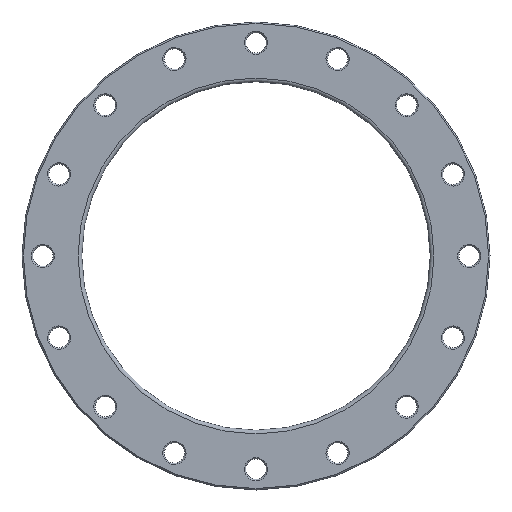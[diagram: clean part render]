
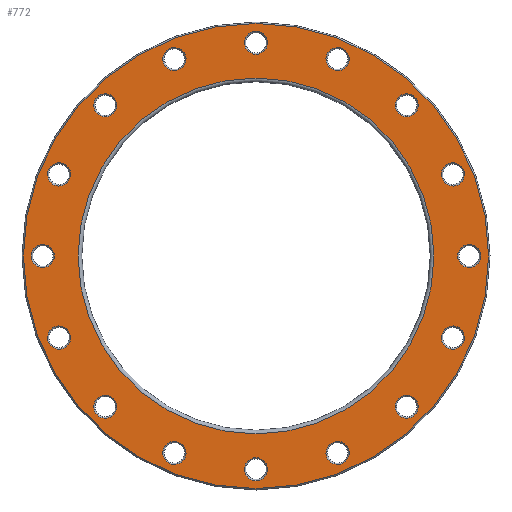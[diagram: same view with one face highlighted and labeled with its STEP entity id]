
A CAD part, front view. The second image highlights one B-rep face of the part: STEP entity #772.
In plain terms, the highlighted planar face has unit normal (0, -1, 0).
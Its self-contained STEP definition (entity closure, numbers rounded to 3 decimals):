
#23=PLANE('',#908);
#170=ORIENTED_EDGE('',*,*,#269,.T.);
#171=ORIENTED_EDGE('',*,*,#270,.T.);
#172=ORIENTED_EDGE('',*,*,#204,.T.);
#173=ORIENTED_EDGE('',*,*,#208,.T.);
#174=ORIENTED_EDGE('',*,*,#212,.T.);
#175=ORIENTED_EDGE('',*,*,#216,.T.);
#176=ORIENTED_EDGE('',*,*,#220,.T.);
#177=ORIENTED_EDGE('',*,*,#224,.T.);
#178=ORIENTED_EDGE('',*,*,#228,.T.);
#179=ORIENTED_EDGE('',*,*,#232,.T.);
#180=ORIENTED_EDGE('',*,*,#236,.T.);
#181=ORIENTED_EDGE('',*,*,#240,.T.);
#182=ORIENTED_EDGE('',*,*,#244,.T.);
#183=ORIENTED_EDGE('',*,*,#248,.T.);
#184=ORIENTED_EDGE('',*,*,#252,.T.);
#185=ORIENTED_EDGE('',*,*,#256,.T.);
#186=ORIENTED_EDGE('',*,*,#260,.T.);
#187=ORIENTED_EDGE('',*,*,#271,.T.);
#204=EDGE_CURVE('',#276,#276,#348,.T.);
#208=EDGE_CURVE('',#280,#280,#352,.T.);
#212=EDGE_CURVE('',#284,#284,#356,.T.);
#216=EDGE_CURVE('',#288,#288,#360,.T.);
#220=EDGE_CURVE('',#292,#292,#364,.T.);
#224=EDGE_CURVE('',#296,#296,#368,.T.);
#228=EDGE_CURVE('',#300,#300,#372,.T.);
#232=EDGE_CURVE('',#304,#304,#376,.T.);
#236=EDGE_CURVE('',#308,#308,#380,.T.);
#240=EDGE_CURVE('',#312,#312,#384,.T.);
#244=EDGE_CURVE('',#316,#316,#388,.T.);
#248=EDGE_CURVE('',#320,#320,#392,.T.);
#252=EDGE_CURVE('',#324,#324,#396,.T.);
#256=EDGE_CURVE('',#328,#328,#400,.T.);
#260=EDGE_CURVE('',#332,#332,#404,.T.);
#269=EDGE_CURVE('',#341,#341,#413,.F.);
#270=EDGE_CURVE('',#342,#342,#414,.T.);
#271=EDGE_CURVE('',#343,#343,#415,.T.);
#276=VERTEX_POINT('',#1187);
#280=VERTEX_POINT('',#1198);
#284=VERTEX_POINT('',#1209);
#288=VERTEX_POINT('',#1220);
#292=VERTEX_POINT('',#1231);
#296=VERTEX_POINT('',#1242);
#300=VERTEX_POINT('',#1253);
#304=VERTEX_POINT('',#1264);
#308=VERTEX_POINT('',#1275);
#312=VERTEX_POINT('',#1286);
#316=VERTEX_POINT('',#1297);
#320=VERTEX_POINT('',#1308);
#324=VERTEX_POINT('',#1319);
#328=VERTEX_POINT('',#1330);
#332=VERTEX_POINT('',#1341);
#341=VERTEX_POINT('',#1364);
#342=VERTEX_POINT('',#1366);
#343=VERTEX_POINT('',#1368);
#348=CIRCLE('',#797,12.5);
#352=CIRCLE('',#804,12.5);
#356=CIRCLE('',#811,12.5);
#360=CIRCLE('',#818,12.5);
#364=CIRCLE('',#825,12.5);
#368=CIRCLE('',#832,12.5);
#372=CIRCLE('',#839,12.5);
#376=CIRCLE('',#846,12.5);
#380=CIRCLE('',#853,12.5);
#384=CIRCLE('',#860,12.5);
#388=CIRCLE('',#867,12.5);
#392=CIRCLE('',#874,12.5);
#396=CIRCLE('',#881,12.5);
#400=CIRCLE('',#888,12.5);
#404=CIRCLE('',#895,12.5);
#413=CIRCLE('',#909,251.);
#414=CIRCLE('',#910,192.);
#415=CIRCLE('',#911,12.5);
#530=EDGE_LOOP('',(#170));
#531=EDGE_LOOP('',(#171));
#532=EDGE_LOOP('',(#172));
#533=EDGE_LOOP('',(#173));
#534=EDGE_LOOP('',(#174));
#535=EDGE_LOOP('',(#175));
#536=EDGE_LOOP('',(#176));
#537=EDGE_LOOP('',(#177));
#538=EDGE_LOOP('',(#178));
#539=EDGE_LOOP('',(#179));
#540=EDGE_LOOP('',(#180));
#541=EDGE_LOOP('',(#181));
#542=EDGE_LOOP('',(#182));
#543=EDGE_LOOP('',(#183));
#544=EDGE_LOOP('',(#184));
#545=EDGE_LOOP('',(#185));
#546=EDGE_LOOP('',(#186));
#547=EDGE_LOOP('',(#187));
#674=FACE_BOUND('',#530,.T.);
#675=FACE_BOUND('',#531,.T.);
#676=FACE_BOUND('',#532,.T.);
#677=FACE_BOUND('',#533,.T.);
#678=FACE_BOUND('',#534,.T.);
#679=FACE_BOUND('',#535,.T.);
#680=FACE_BOUND('',#536,.T.);
#681=FACE_BOUND('',#537,.T.);
#682=FACE_BOUND('',#538,.T.);
#683=FACE_BOUND('',#539,.T.);
#684=FACE_BOUND('',#540,.T.);
#685=FACE_BOUND('',#541,.T.);
#686=FACE_BOUND('',#542,.T.);
#687=FACE_BOUND('',#543,.T.);
#688=FACE_BOUND('',#544,.T.);
#689=FACE_BOUND('',#545,.T.);
#690=FACE_BOUND('',#546,.T.);
#691=FACE_BOUND('',#547,.T.);
#772=ADVANCED_FACE('',(#674,#675,#676,#677,#678,#679,#680,#681,#682,#683,
#684,#685,#686,#687,#688,#689,#690,#691),#23,.F.);
#797=AXIS2_PLACEMENT_3D('',#1186,#931,#932);
#804=AXIS2_PLACEMENT_3D('',#1197,#945,#946);
#811=AXIS2_PLACEMENT_3D('',#1208,#959,#960);
#818=AXIS2_PLACEMENT_3D('',#1219,#973,#974);
#825=AXIS2_PLACEMENT_3D('',#1230,#987,#988);
#832=AXIS2_PLACEMENT_3D('',#1241,#1001,#1002);
#839=AXIS2_PLACEMENT_3D('',#1252,#1015,#1016);
#846=AXIS2_PLACEMENT_3D('',#1263,#1029,#1030);
#853=AXIS2_PLACEMENT_3D('',#1274,#1043,#1044);
#860=AXIS2_PLACEMENT_3D('',#1285,#1057,#1058);
#867=AXIS2_PLACEMENT_3D('',#1296,#1071,#1072);
#874=AXIS2_PLACEMENT_3D('',#1307,#1085,#1086);
#881=AXIS2_PLACEMENT_3D('',#1318,#1099,#1100);
#888=AXIS2_PLACEMENT_3D('',#1329,#1113,#1114);
#895=AXIS2_PLACEMENT_3D('',#1340,#1127,#1128);
#908=AXIS2_PLACEMENT_3D('',#1362,#1153,#1154);
#909=AXIS2_PLACEMENT_3D('',#1363,#1155,#1156);
#910=AXIS2_PLACEMENT_3D('',#1365,#1157,#1158);
#911=AXIS2_PLACEMENT_3D('',#1367,#1159,#1160);
#931=DIRECTION('',(0.,1.,0.));
#932=DIRECTION('',(0.924,0.,0.383));
#945=DIRECTION('',(0.,1.,0.));
#946=DIRECTION('',(0.707,0.,0.707));
#959=DIRECTION('',(0.,1.,0.));
#960=DIRECTION('',(0.383,0.,0.924));
#973=DIRECTION('',(0.,1.,0.));
#974=DIRECTION('',(0.,0.,1.));
#987=DIRECTION('',(0.,1.,0.));
#988=DIRECTION('',(-0.383,0.,0.924));
#1001=DIRECTION('',(0.,1.,0.));
#1002=DIRECTION('',(-0.707,0.,0.707));
#1015=DIRECTION('',(0.,1.,0.));
#1016=DIRECTION('',(-0.924,0.,0.383));
#1029=DIRECTION('',(0.,1.,0.));
#1030=DIRECTION('',(-1.,0.,0.));
#1043=DIRECTION('',(0.,1.,0.));
#1044=DIRECTION('',(-0.924,0.,-0.383));
#1057=DIRECTION('',(0.,1.,0.));
#1058=DIRECTION('',(-0.707,0.,-0.707));
#1071=DIRECTION('',(0.,1.,0.));
#1072=DIRECTION('',(-0.383,0.,-0.924));
#1085=DIRECTION('',(0.,1.,0.));
#1086=DIRECTION('',(0.,0.,-1.));
#1099=DIRECTION('',(0.,1.,0.));
#1100=DIRECTION('',(0.383,0.,-0.924));
#1113=DIRECTION('',(0.,1.,0.));
#1114=DIRECTION('',(0.707,0.,-0.707));
#1127=DIRECTION('',(0.,1.,0.));
#1128=DIRECTION('',(0.924,0.,-0.383));
#1153=DIRECTION('',(0.,1.,0.));
#1154=DIRECTION('',(0.,0.,1.));
#1155=DIRECTION('',(0.,1.,0.));
#1156=DIRECTION('',(0.,0.,1.));
#1157=DIRECTION('',(0.,1.,0.));
#1158=DIRECTION('',(0.,0.,1.));
#1159=DIRECTION('',(0.,1.,0.));
#1160=DIRECTION('',(1.,0.,0.));
#1186=CARTESIAN_POINT('',(-88.017,0.,212.492));
#1187=CARTESIAN_POINT('',(-76.469,0.,217.276));
#1197=CARTESIAN_POINT('',(-162.635,0.,162.635));
#1198=CARTESIAN_POINT('',(-153.796,0.,171.473));
#1208=CARTESIAN_POINT('',(-212.492,0.,88.017));
#1209=CARTESIAN_POINT('',(-207.709,0.,99.566));
#1219=CARTESIAN_POINT('',(-230.,0.,0.));
#1220=CARTESIAN_POINT('',(-230.,0.,12.5));
#1230=CARTESIAN_POINT('',(-212.492,0.,-88.017));
#1231=CARTESIAN_POINT('',(-217.276,0.,-76.469));
#1241=CARTESIAN_POINT('',(-162.635,0.,-162.635));
#1242=CARTESIAN_POINT('',(-171.473,0.,-153.796));
#1252=CARTESIAN_POINT('',(-88.017,0.,-212.492));
#1253=CARTESIAN_POINT('',(-99.566,0.,-207.709));
#1263=CARTESIAN_POINT('',(0.,0.,-230.));
#1264=CARTESIAN_POINT('',(-12.5,0.,-230.));
#1274=CARTESIAN_POINT('',(88.017,0.,-212.492));
#1275=CARTESIAN_POINT('',(76.469,0.,-217.276));
#1285=CARTESIAN_POINT('',(162.635,0.,-162.635));
#1286=CARTESIAN_POINT('',(153.796,0.,-171.473));
#1296=CARTESIAN_POINT('',(212.492,0.,-88.017));
#1297=CARTESIAN_POINT('',(207.709,0.,-99.566));
#1307=CARTESIAN_POINT('',(230.,0.,0.));
#1308=CARTESIAN_POINT('',(230.,0.,-12.5));
#1318=CARTESIAN_POINT('',(212.492,0.,88.017));
#1319=CARTESIAN_POINT('',(217.276,0.,76.469));
#1329=CARTESIAN_POINT('',(162.635,0.,162.635));
#1330=CARTESIAN_POINT('',(171.473,0.,153.796));
#1340=CARTESIAN_POINT('',(88.017,0.,212.492));
#1341=CARTESIAN_POINT('',(99.566,0.,207.709));
#1362=CARTESIAN_POINT('',(0.,0.,0.));
#1363=CARTESIAN_POINT('',(0.,0.,0.));
#1364=CARTESIAN_POINT('',(0.,0.,251.));
#1365=CARTESIAN_POINT('',(0.,0.,0.));
#1366=CARTESIAN_POINT('',(0.,0.,192.));
#1367=CARTESIAN_POINT('',(0.,0.,230.));
#1368=CARTESIAN_POINT('',(12.5,0.,230.));
